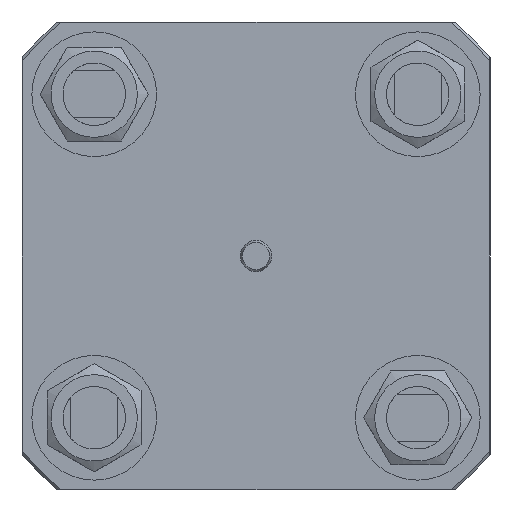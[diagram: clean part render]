
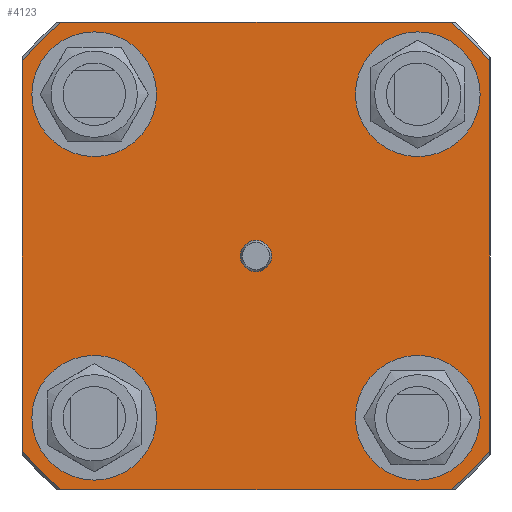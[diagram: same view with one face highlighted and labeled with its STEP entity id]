
A CAD part, left-side view. The second image highlights one B-rep face of the part: STEP entity #4123.
In plain terms, the highlighted planar face has unit normal (-1, 0, 0).
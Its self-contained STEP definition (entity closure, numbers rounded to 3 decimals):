
#242=FACE_BOUND('',#751,.T.);
#243=FACE_BOUND('',#752,.T.);
#244=FACE_BOUND('',#753,.T.);
#245=FACE_BOUND('',#754,.T.);
#246=FACE_BOUND('',#755,.T.);
#328=PLANE('',#4513);
#484=FACE_OUTER_BOUND('',#750,.T.);
#750=EDGE_LOOP('',(#3157,#3158,#3159,#3160,#3161,#3162,#3163,#3164));
#751=EDGE_LOOP('',(#3165));
#752=EDGE_LOOP('',(#3166));
#753=EDGE_LOOP('',(#3167));
#754=EDGE_LOOP('',(#3168));
#755=EDGE_LOOP('',(#3169));
#1019=LINE('',#6752,#1251);
#1020=LINE('',#6756,#1252);
#1021=LINE('',#6760,#1253);
#1022=LINE('',#6764,#1254);
#1251=VECTOR('',#5379,10.);
#1252=VECTOR('',#5382,10.);
#1253=VECTOR('',#5385,10.);
#1254=VECTOR('',#5388,10.);
#1452=CIRCLE('',#4437,3.);
#1463=CIRCLE('',#4479,12.);
#1465=CIRCLE('',#4483,12.);
#1467=CIRCLE('',#4487,12.);
#1471=CIRCLE('',#4502,12.);
#1480=CIRCLE('',#4514,58.5);
#1481=CIRCLE('',#4515,58.5);
#1482=CIRCLE('',#4516,58.5);
#1483=CIRCLE('',#4517,58.5);
#1730=VERTEX_POINT('',#6376);
#1777=VERTEX_POINT('',#6599);
#1779=VERTEX_POINT('',#6606);
#1781=VERTEX_POINT('',#6613);
#1797=VERTEX_POINT('',#6689);
#1812=VERTEX_POINT('',#6750);
#1813=VERTEX_POINT('',#6751);
#1814=VERTEX_POINT('',#6753);
#1815=VERTEX_POINT('',#6755);
#1816=VERTEX_POINT('',#6757);
#1817=VERTEX_POINT('',#6759);
#1818=VERTEX_POINT('',#6761);
#1819=VERTEX_POINT('',#6763);
#2170=EDGE_CURVE('',#1730,#1730,#1452,.T.);
#2243=EDGE_CURVE('',#1777,#1777,#1463,.T.);
#2246=EDGE_CURVE('',#1779,#1779,#1465,.T.);
#2249=EDGE_CURVE('',#1781,#1781,#1467,.T.);
#2274=EDGE_CURVE('',#1797,#1797,#1471,.T.);
#2291=EDGE_CURVE('',#1812,#1813,#1019,.T.);
#2292=EDGE_CURVE('',#1813,#1814,#1480,.T.);
#2293=EDGE_CURVE('',#1814,#1815,#1020,.T.);
#2294=EDGE_CURVE('',#1815,#1816,#1481,.T.);
#2295=EDGE_CURVE('',#1816,#1817,#1021,.T.);
#2296=EDGE_CURVE('',#1817,#1818,#1482,.T.);
#2297=EDGE_CURVE('',#1818,#1819,#1022,.T.);
#2298=EDGE_CURVE('',#1819,#1812,#1483,.T.);
#3157=ORIENTED_EDGE('',*,*,#2291,.T.);
#3158=ORIENTED_EDGE('',*,*,#2292,.T.);
#3159=ORIENTED_EDGE('',*,*,#2293,.T.);
#3160=ORIENTED_EDGE('',*,*,#2294,.T.);
#3161=ORIENTED_EDGE('',*,*,#2295,.T.);
#3162=ORIENTED_EDGE('',*,*,#2296,.T.);
#3163=ORIENTED_EDGE('',*,*,#2297,.T.);
#3164=ORIENTED_EDGE('',*,*,#2298,.T.);
#3165=ORIENTED_EDGE('',*,*,#2170,.T.);
#3166=ORIENTED_EDGE('',*,*,#2243,.T.);
#3167=ORIENTED_EDGE('',*,*,#2246,.T.);
#3168=ORIENTED_EDGE('',*,*,#2249,.T.);
#3169=ORIENTED_EDGE('',*,*,#2274,.T.);
#4123=ADVANCED_FACE('',(#484,#242,#243,#244,#245,#246),#328,.T.);
#4437=AXIS2_PLACEMENT_3D('',#6377,#5182,#5183);
#4479=AXIS2_PLACEMENT_3D('',#6600,#5292,#5293);
#4483=AXIS2_PLACEMENT_3D('',#6607,#5301,#5302);
#4487=AXIS2_PLACEMENT_3D('',#6614,#5310,#5311);
#4502=AXIS2_PLACEMENT_3D('',#6690,#5349,#5350);
#4513=AXIS2_PLACEMENT_3D('',#6749,#5377,#5378);
#4514=AXIS2_PLACEMENT_3D('',#6754,#5380,#5381);
#4515=AXIS2_PLACEMENT_3D('',#6758,#5383,#5384);
#4516=AXIS2_PLACEMENT_3D('',#6762,#5386,#5387);
#4517=AXIS2_PLACEMENT_3D('',#6765,#5389,#5390);
#5182=DIRECTION('center_axis',(1.,0.,0.));
#5183=DIRECTION('ref_axis',(0.,1.,0.));
#5292=DIRECTION('center_axis',(1.,0.,0.));
#5293=DIRECTION('ref_axis',(0.,-1.,0.));
#5301=DIRECTION('center_axis',(1.,0.,0.));
#5302=DIRECTION('ref_axis',(0.,0.,-1.));
#5310=DIRECTION('center_axis',(1.,0.,0.));
#5311=DIRECTION('ref_axis',(0.,1.,0.));
#5349=DIRECTION('center_axis',(1.,0.,0.));
#5350=DIRECTION('ref_axis',(0.,0.,
1.));
#5377=DIRECTION('center_axis',(-1.,0.,0.));
#5378=DIRECTION('ref_axis',(0.,0.,
-1.));
#5379=DIRECTION('',(0.,-1.,0.));
#5380=DIRECTION('center_axis',(-1.,0.,0.));
#5381=DIRECTION('ref_axis',(0.,0.,
-1.));
#5382=DIRECTION('',(0.,0.,1.));
#5383=DIRECTION('center_axis',(-1.,0.,0.));
#5384=DIRECTION('ref_axis',(0.,0.,
-1.));
#5385=DIRECTION('',(0.,1.,0.));
#5386=DIRECTION('center_axis',(-1.,0.,0.));
#5387=DIRECTION('ref_axis',(0.,0.,
-1.));
#5388=DIRECTION('',(0.,0.,-1.));
#5389=DIRECTION('center_axis',(-1.,0.,0.));
#5390=DIRECTION('ref_axis',(0.,0.,
-1.));
#6376=CARTESIAN_POINT('',(-253.635,-3.,0.));
#6377=CARTESIAN_POINT('Origin',(-253.635,0.,0.));
#6599=CARTESIAN_POINT('',(-253.635,-19.113,31.113));
#6600=CARTESIAN_POINT('Origin',(-253.635,-31.113,31.113));
#6606=CARTESIAN_POINT('',(-253.635,-31.113,-19.113));
#6607=CARTESIAN_POINT('Origin',(-253.635,-31.113,-31.113));
#6613=CARTESIAN_POINT('',(-253.635,19.113,-31.113));
#6614=CARTESIAN_POINT('Origin',(-253.635,31.113,-31.113));
#6689=CARTESIAN_POINT('',(-253.635,31.113,19.113));
#6690=CARTESIAN_POINT('Origin',(-253.635,31.113,31.113));
#6749=CARTESIAN_POINT('Origin',(-253.635,-3.1,0.));
#6750=CARTESIAN_POINT('',(-253.635,37.38,-45.));
#6751=CARTESIAN_POINT('',(-253.635,-37.38,-45.));
#6752=CARTESIAN_POINT('',(-253.635,20.95,-45.));
#6753=CARTESIAN_POINT('',(-253.635,-45.,-37.38));
#6754=CARTESIAN_POINT('Origin',(-253.635,0.,0.));
#6755=CARTESIAN_POINT('',(-253.635,-45.,37.38));
#6756=CARTESIAN_POINT('',(-253.635,-45.,-22.5));
#6757=CARTESIAN_POINT('',(-253.635,-37.38,45.));
#6758=CARTESIAN_POINT('Origin',(-253.635,0.,0.));
#6759=CARTESIAN_POINT('',(-253.635,37.38,45.));
#6760=CARTESIAN_POINT('',(-253.635,-24.05,45.));
#6761=CARTESIAN_POINT('',(-253.635,45.,37.38));
#6762=CARTESIAN_POINT('Origin',(-253.635,0.,0.));
#6763=CARTESIAN_POINT('',(-253.635,45.,-37.38));
#6764=CARTESIAN_POINT('',(-253.635,45.,22.5));
#6765=CARTESIAN_POINT('Origin',(-253.635,0.,0.));
